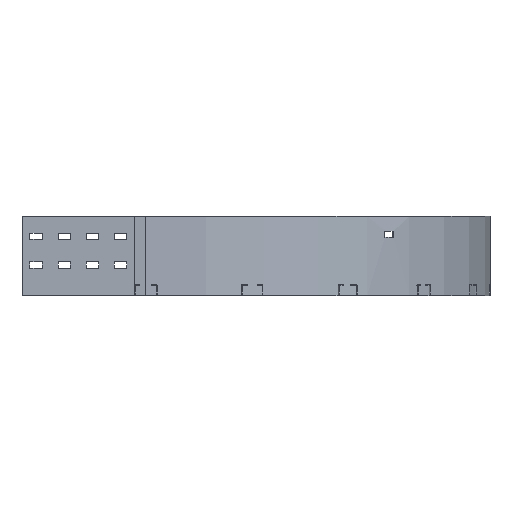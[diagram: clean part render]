
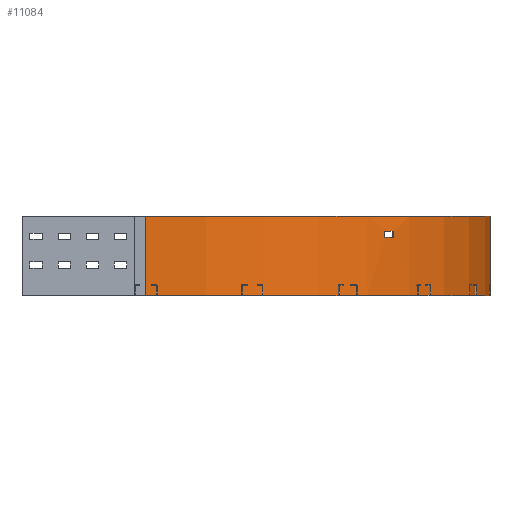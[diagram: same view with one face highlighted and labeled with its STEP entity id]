
A CAD part, front view. The second image highlights one B-rep face of the part: STEP entity #11084.
In plain terms, the highlighted cylindrical face has radius 611 mm (diameter 1222 mm), a partial arc.
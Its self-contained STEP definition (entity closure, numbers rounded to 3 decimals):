
#275=FACE_BOUND('',#1540,.T.);
#475=CYLINDRICAL_SURFACE('',#11687,611.);
#508=CIRCLE('',#11679,611.);
#513=CIRCLE('',#11686,611.);
#514=CIRCLE('',#11688,611.);
#515=CIRCLE('',#11689,611.);
#962=FACE_OUTER_BOUND('',#1539,.T.);
#1539=EDGE_LOOP('',(#7496,#7497,#7498,#7499));
#1540=EDGE_LOOP('',(#7500,#7501,#7502,#7503));
#2315=LINE('',#15445,#3511);
#2321=LINE('',#15469,#3517);
#2322=LINE('',#15474,#3518);
#2323=LINE('',#15477,#3519);
#3511=VECTOR('',#12562,304.8);
#3517=VECTOR('',#12588,304.8);
#3518=VECTOR('',#12591,304.8);
#3519=VECTOR('',#12594,304.8);
#4704=VERTEX_POINT('',#15438);
#4707=VERTEX_POINT('',#15443);
#4708=VERTEX_POINT('',#15447);
#4715=VERTEX_POINT('',#15465);
#4716=VERTEX_POINT('',#15470);
#4717=VERTEX_POINT('',#15471);
#4718=VERTEX_POINT('',#15473);
#4719=VERTEX_POINT('',#15475);
#5811=EDGE_CURVE('',#4707,#4704,#2315,.T.);
#5812=EDGE_CURVE('',#4704,#4708,#508,.T.);
#5822=EDGE_CURVE('',#4715,#4707,#513,.T.);
#5823=EDGE_CURVE('',#4708,#4715,#2321,.T.);
#5824=EDGE_CURVE('',#4716,#4717,#514,.T.);
#5825=EDGE_CURVE('',#4717,#4718,#2322,.T.);
#5826=EDGE_CURVE('',#4718,#4719,#515,.T.);
#5827=EDGE_CURVE('',#4719,#4716,#2323,.T.);
#7496=ORIENTED_EDGE('',*,*,#5811,.F.);
#7497=ORIENTED_EDGE('',*,*,#5822,.F.);
#7498=ORIENTED_EDGE('',*,*,#5823,.F.);
#7499=ORIENTED_EDGE('',*,*,#5812,.F.);
#7500=ORIENTED_EDGE('',*,*,#5824,.T.);
#7501=ORIENTED_EDGE('',*,*,#5825,.T.);
#7502=ORIENTED_EDGE('',*,*,#5826,.T.);
#7503=ORIENTED_EDGE('',*,*,#5827,.T.);
#11084=ADVANCED_FACE('',(#962,#275),#475,.T.);
#11679=AXIS2_PLACEMENT_3D('',#15448,#12565,#12566);
#11686=AXIS2_PLACEMENT_3D('',#15467,#12584,#12585);
#11687=AXIS2_PLACEMENT_3D('',#15468,#12586,#12587);
#11688=AXIS2_PLACEMENT_3D('',#15472,#12589,#12590);
#11689=AXIS2_PLACEMENT_3D('',#15476,#12592,#12593);
#12562=DIRECTION('',(0.,0.,1.));
#12565=DIRECTION('center_axis',(0.,0.,1.));
#12566=DIRECTION('ref_axis',(0.,-1.,0.));
#12584=DIRECTION('center_axis',(0.,0.,-1.));
#12585=DIRECTION('ref_axis',(0.,-1.,0.));
#12586=DIRECTION('center_axis',(0.,0.,1.));
#12587=DIRECTION('ref_axis',(0.,-1.,0.));
#12588=DIRECTION('',(0.,0.,-1.));
#12589=DIRECTION('center_axis',(0.,0.,1.));
#12590=DIRECTION('ref_axis',(0.,-1.,0.));
#12591=DIRECTION('',(0.,0.,-1.));
#12592=DIRECTION('center_axis',(0.,0.,-1.));
#12593=DIRECTION('ref_axis',(0.,-1.,0.));
#12594=DIRECTION('',(0.,0.,1.));
#15438=CARTESIAN_POINT('',(-455.5,-155.5,71.));
#15443=CARTESIAN_POINT('',(-455.5,-155.5,-71.));
#15445=CARTESIAN_POINT('',(-455.5,-155.5,-71.));
#15447=CARTESIAN_POINT('',(155.5,455.5,71.));
#15448=CARTESIAN_POINT('Origin',(-455.5,455.5,71.));
#15465=CARTESIAN_POINT('',(155.5,455.5,-71.));
#15467=CARTESIAN_POINT('Origin',(-455.5,455.5,-71.));
#15468=CARTESIAN_POINT('Origin',(-455.5,455.5,0.));
#15469=CARTESIAN_POINT('',(155.5,455.5,71.));
#15470=CARTESIAN_POINT('',(-31.247,15.807,44.));
#15471=CARTESIAN_POINT('',(-15.692,31.365,44.));
#15472=CARTESIAN_POINT('Origin',(-455.5,455.5,44.));
#15473=CARTESIAN_POINT('',(-15.692,31.365,33.));
#15474=CARTESIAN_POINT('',(-15.692,31.365,44.));
#15475=CARTESIAN_POINT('',(-31.247,15.807,33.));
#15476=CARTESIAN_POINT('Origin',(-455.5,455.5,33.));
#15477=CARTESIAN_POINT('',(-31.247,15.807,33.));
